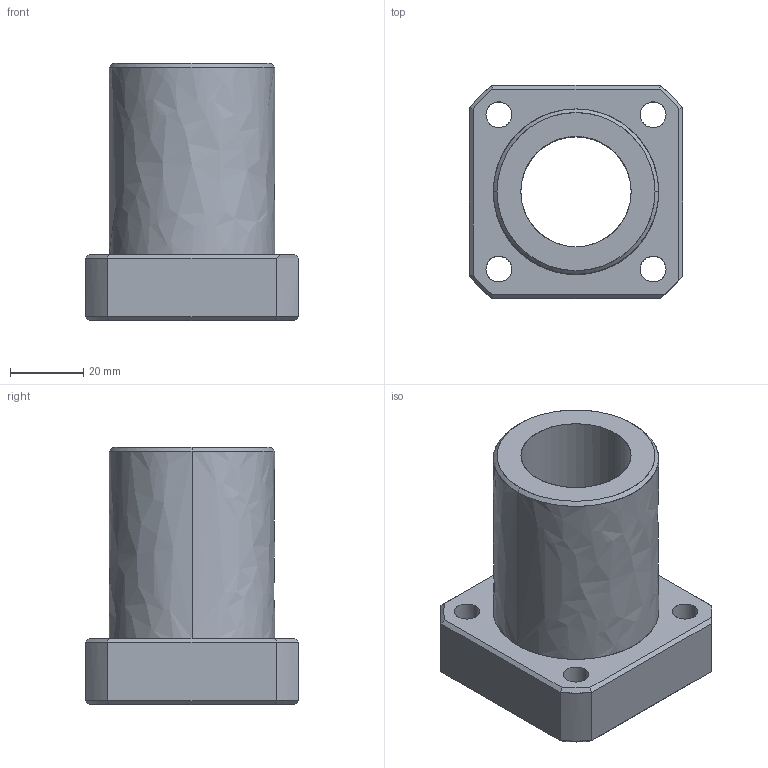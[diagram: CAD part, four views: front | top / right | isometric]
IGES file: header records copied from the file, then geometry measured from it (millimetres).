
Global section: file name: No Iges File Name specified; native system: AutoDesk Inventor R10; preprocessor: AutoDesk Inventor Iges Exporter R10; author: No Author specified; organization: No Organization specified; date: 20101214.155205; units: millimetre
Bounding box: 58 x 58 x 70 mm (x, y, z)
Surface area: 23991 mm2 (no closed solid volume)
Topology: 0 solids, 0 shells, 62 faces, 448 edges, 448 vertices
Faces by surface type: bspline 62
